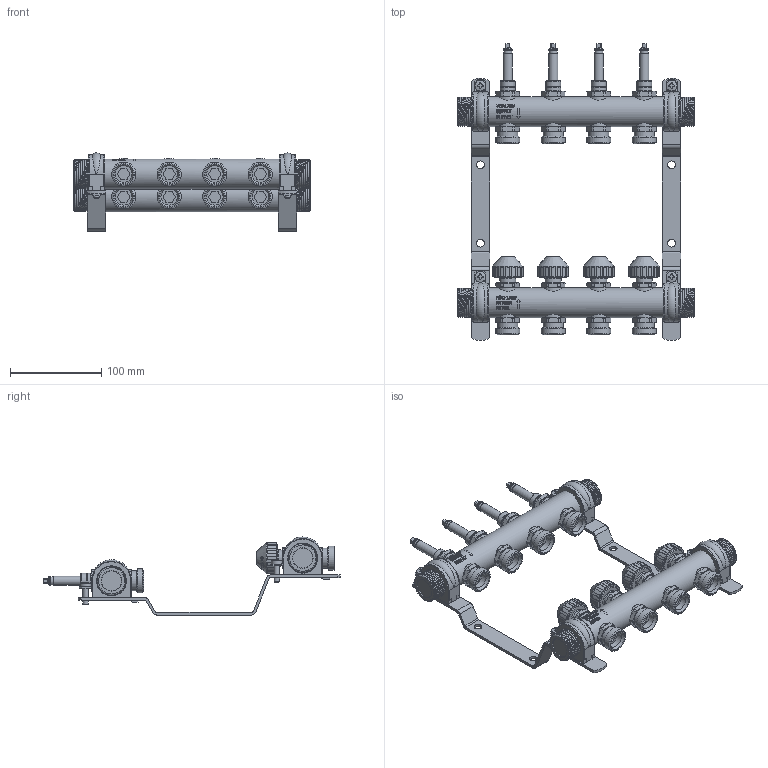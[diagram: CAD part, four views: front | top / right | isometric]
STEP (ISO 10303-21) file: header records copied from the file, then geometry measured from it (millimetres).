
FILE_DESCRIPTION((''),'2;1');
FILE_NAME('C:\Users\duckj\Desktop\10070002-3.stp','2017-07-06T14:58:53',('duckj'),(''),'Autodesk Inventor 2013','Autodesk Inventor 2013','');
FILE_SCHEMA(('CONFIG_CONTROL_DESIGN'));
Length unit declared in the file: millimetre
Products named in the file (4): 06072017_011; 26102016_005; 06072017_016; 06072017_010
Assembly tree (4 placements, depth 2):
  06072017_011
    26102016_005  x2
    06072017_016
    06072017_010
Bounding box: 260 x 326.14 x 85.69 mm (x, y, z)
Volume: 694670.6 mm3; surface area: 160397.4 mm2
Topology: 4 solids, 4 shells, 2176 faces, 5687 edges, 3710 vertices
Faces by surface type: plane 1073, cylinder 535, cone 268, bspline 242, torus 54, sphere 4
Full cylindrical faces by diameter (mm): 6 x8, 8.5 x4, 9 x4, 10 x8, 12 x8, 12.5 x4, 14 x8, 15.5 x4, 16.5 x8, 18 x4, 18.1 x8, 21.8 x16, 22 x28, 26.441 x8, 30 x4, 33 x6, 33.7 x4
Entity records: 129756 total; most frequent: CARTESIAN_POINT 81445, ORIENTED_EDGE 9982, DIRECTION 8781, EDGE_CURVE 4991, VERTEX_POINT 3358, AXIS2_PLACEMENT_3D 3275, EDGE_LOOP 2465, VECTOR 2231
